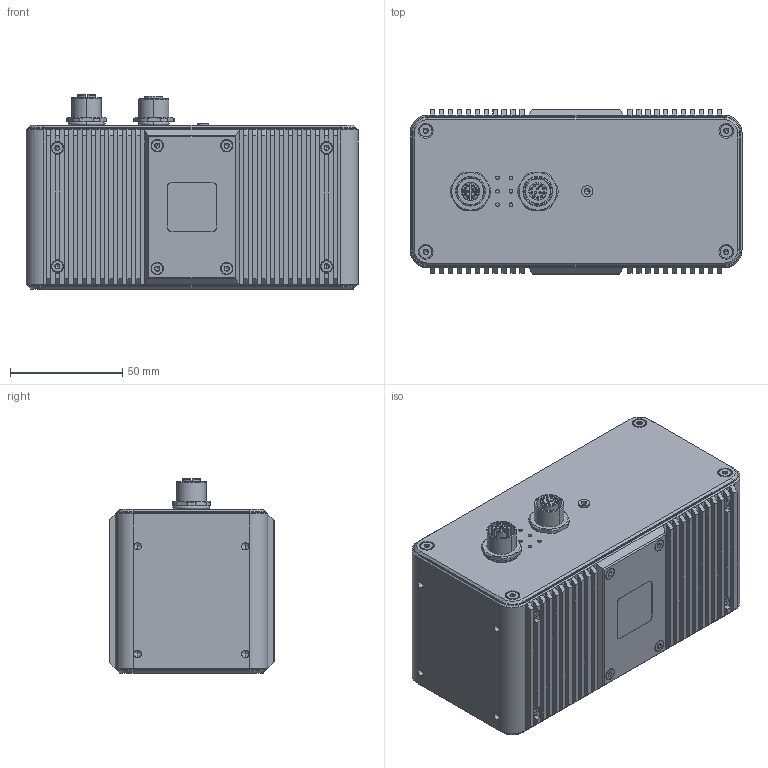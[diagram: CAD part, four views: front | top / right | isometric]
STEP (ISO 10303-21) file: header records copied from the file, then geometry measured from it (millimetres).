
FILE_DESCRIPTION (( 'STEP AP214' ), '1' );
FILE_NAME ('×°ÅäÌå1.STEP', '2024-11-07T10:21:05', ( '' ), ( '' ), 'SwSTEP 2.0', 'SolidWorks 2023', '' );
FILE_SCHEMA (( 'AUTOMOTIVE_DESIGN' ));
Length unit declared in the file: millimetre
Products named in the file (1): 装配体1
Bounding box: 148 x 73.5 x 86.5 mm (x, y, z)
Volume: 613944.8 mm3; surface area: 119445.5 mm2
Topology: 25 solids, 25 shells, 2094 faces, 4950 edges, 2970 vertices
Faces by surface type: plane 882, cylinder 447, cone 419, bspline 235, torus 111
Entity records: 74533 total; most frequent: CARTESIAN_POINT 28183, ORIENTED_EDGE 9688, DIRECTION 9109, EDGE_CURVE 4844, AXIS2_PLACEMENT_3D 3253, VERTEX_POINT 2970, VECTOR 2603, LINE 2603
